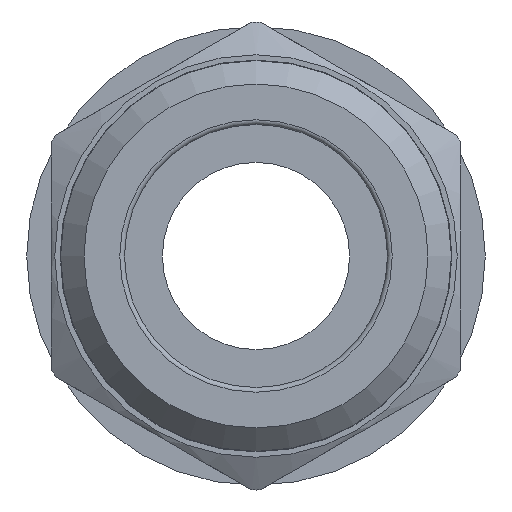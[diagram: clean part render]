
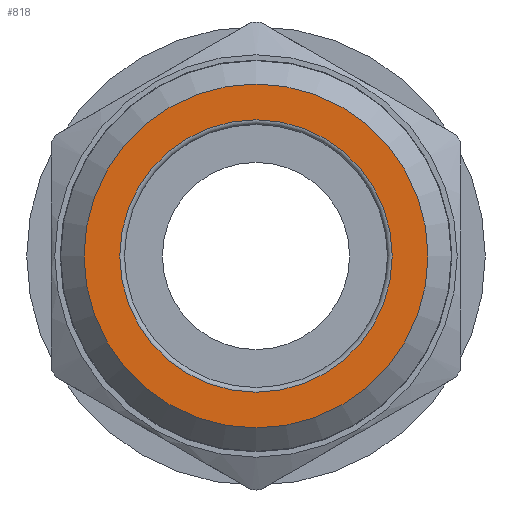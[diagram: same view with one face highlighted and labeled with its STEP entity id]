
A CAD part, front view. The second image highlights one B-rep face of the part: STEP entity #818.
In plain terms, the highlighted planar face has unit normal (0, -1, 0).
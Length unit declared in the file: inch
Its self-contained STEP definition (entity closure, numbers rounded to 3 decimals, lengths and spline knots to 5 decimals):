
#136=FACE_BOUND('',#217,.T.);
#149=PLANE('',#898);
#169=FACE_OUTER_BOUND('',#216,.T.);
#216=EDGE_LOOP('',(#574));
#217=EDGE_LOOP('',(#575,#576));
#277=CIRCLE('',#895,0.291);
#278=CIRCLE('',#896,0.291);
#280=CIRCLE('',#899,0.3675);
#356=VERTEX_POINT('',#1322);
#357=VERTEX_POINT('',#1324);
#358=VERTEX_POINT('',#1329);
#446=EDGE_CURVE('',#356,#357,#277,.T.);
#447=EDGE_CURVE('',#357,#356,#278,.T.);
#449=EDGE_CURVE('',#358,#358,#280,.T.);
#574=ORIENTED_EDGE('',*,*,#449,.F.);
#575=ORIENTED_EDGE('',*,*,#447,.F.);
#576=ORIENTED_EDGE('',*,*,#446,.F.);
#818=ADVANCED_FACE('',(#169,#136),#149,.T.);
#895=AXIS2_PLACEMENT_3D('',#1325,#1031,#1032);
#896=AXIS2_PLACEMENT_3D('',#1326,#1033,#1034);
#898=AXIS2_PLACEMENT_3D('',#1328,#1037,#1038);
#899=AXIS2_PLACEMENT_3D('',#1330,#1039,#1040);
#1031=DIRECTION('center_axis',(0.,-1.,0.));
#1032=DIRECTION('ref_axis',(0.,0.,1.));
#1033=DIRECTION('center_axis',(0.,-1.,0.));
#1034=DIRECTION('ref_axis',(0.,0.,1.));
#1037=DIRECTION('center_axis',(0.,-1.,0.));
#1038=DIRECTION('ref_axis',(0.,0.,-1.));
#1039=DIRECTION('center_axis',(0.,1.,0.));
#1040=DIRECTION('ref_axis',(0.,0.,1.));
#1322=CARTESIAN_POINT('',(0.,-1.,0.291));
#1324=CARTESIAN_POINT('',(0.,-1.,-0.291));
#1325=CARTESIAN_POINT('Origin',(0.,-1.,0.));
#1326=CARTESIAN_POINT('Origin',(0.,-1.,0.));
#1328=CARTESIAN_POINT('Origin',(0.,-1.,-0.281));
#1329=CARTESIAN_POINT('',(0.,-1.,-0.3675));
#1330=CARTESIAN_POINT('Origin',(0.,-1.,0.));
